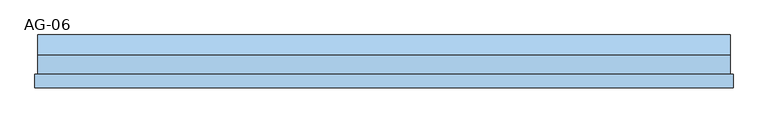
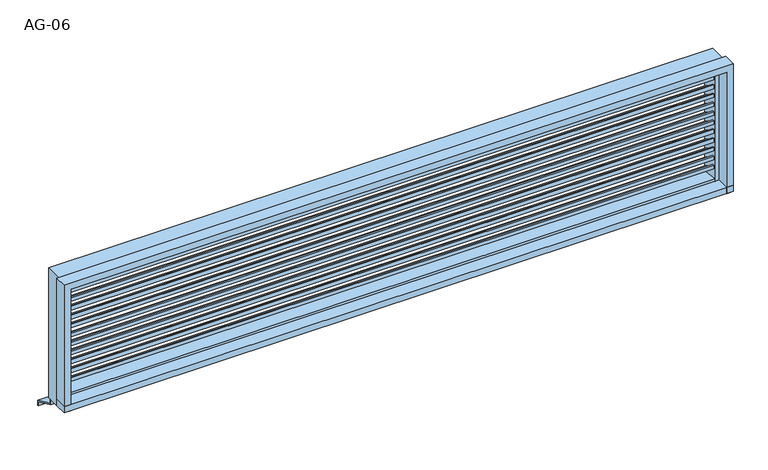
"""IFC4 building model written with IfcOpenShell, lengths in millimetres: window geometry, 営_単窓_ガラリ : AG-06."""

from ifc_helpers import new_model, si_unit, frame, origin, place, context, project, spatial, polyline, outline, extrude, source, transform, mapped, element, save


def ag_06_22dadb70(model_context):
    return source(origin(), model_context, "Body", "SweptSolid", [
        extrude(outline(polyline([(15.0, 1581.8857291), (15.0, 1563.6363636), (10.0, 1563.6363636), (10.0, 1578.6363636), (-35.0, 1598.6363636), (-35.0, 1613.6363636), (-30.0, 1613.6363636), (-30.0, 1601.8857291), (15.0, 1581.8857291)])), frame((-1250.0, 0.0, 0.0), z_axis=(1.0, 0.0, 0.0), x_axis=(0.0, 1.0, 0.0)), (0.0, 0.0, 1.0), 2500.0),
        extrude(outline(polyline([(15.0, 1545.5220927), (15.0, 1527.2727273), (10.0, 1527.2727273), (10.0, 1542.2727273), (-35.0, 1562.2727273), (-35.0, 1577.2727273), (-30.0, 1577.2727273), (-30.0, 1565.5220927), (15.0, 1545.5220927)])), frame((-1250.0, 0.0, 0.0), z_axis=(1.0, 0.0, 0.0), x_axis=(0.0, 1.0, 0.0)), (0.0, 0.0, 1.0), 2500.0),
        extrude(outline(polyline([(15.0, 1509.1584564), (15.0, 1490.9090909), (10.0, 1490.9090909), (10.0, 1505.9090909), (-35.0, 1525.9090909), (-35.0, 1540.9090909), (-30.0, 1540.9090909), (-30.0, 1529.1584564), (15.0, 1509.1584564)])), frame((-1250.0, 0.0, 0.0), z_axis=(1.0, 0.0, 0.0), x_axis=(0.0, 1.0, 0.0)), (0.0, 0.0, 1.0), 2500.0),
        extrude(outline(polyline([(15.0, 1472.79482), (15.0, 1454.5454545), (10.0, 1454.5454545), (10.0, 1469.5454545), (-35.0, 1489.5454545), (-35.0, 1504.5454545), (-30.0, 1504.5454545), (-30.0, 1492.79482), (15.0, 1472.79482)])), frame((-1250.0, 0.0, 0.0), z_axis=(1.0, 0.0, 0.0), x_axis=(0.0, 1.0, 0.0)), (0.0, 0.0, 1.0), 2500.0),
        extrude(outline(polyline([(15.0, 1436.4311836), (15.0, 1418.1818182), (10.0, 1418.1818182), (10.0, 1433.1818182), (-35.0, 1453.1818182), (-35.0, 1468.1818182), (-30.0, 1468.1818182), (-30.0, 1456.4311836), (15.0, 1436.4311836)])), frame((-1250.0, 0.0, 0.0), z_axis=(1.0, 0.0, 0.0), x_axis=(0.0, 1.0, 0.0)), (0.0, 0.0, 1.0), 2500.0),
        extrude(outline(polyline([(15.0, 1400.0675473), (15.0, 1381.8181818), (10.0, 1381.8181818), (10.0, 1396.8181818), (-35.0, 1416.8181818), (-35.0, 1431.8181818), (-30.0, 1431.8181818), (-30.0, 1420.0675473), (15.0, 1400.0675473)])), frame((-1250.0, 0.0, 0.0), z_axis=(1.0, 0.0, 0.0), x_axis=(0.0, 1.0, 0.0)), (0.0, 0.0, 1.0), 2500.0),
        extrude(outline(polyline([(15.0, 1363.7039109), (15.0, 1345.4545455), (10.0, 1345.4545455), (10.0, 1360.4545455), (-35.0, 1380.4545455), (-35.0, 1395.4545455), (-30.0, 1395.4545455), (-30.0, 1383.7039109), (15.0, 1363.7039109)])), frame((-1250.0, 0.0, 0.0), z_axis=(1.0, 0.0, 0.0), x_axis=(0.0, 1.0, 0.0)), (0.0, 0.0, 1.0), 2500.0),
        extrude(outline(polyline([(15.0, 1327.3402745), (15.0, 1309.0909091), (10.0, 1309.0909091), (10.0, 1324.0909091), (-35.0, 1344.0909091), (-35.0, 1359.0909091), (-30.0, 1359.0909091), (-30.0, 1347.3402745), (15.0, 1327.3402745)])), frame((-1250.0, 0.0, 0.0), z_axis=(1.0, 0.0, 0.0), x_axis=(0.0, 1.0, 0.0)), (0.0, 0.0, 1.0), 2500.0),
        extrude(outline(polyline([(15.0, 1290.9766382), (15.0, 1272.7272727), (10.0, 1272.7272727), (10.0, 1287.7272727), (-35.0, 1307.7272727), (-35.0, 1322.7272727), (-30.0, 1322.7272727), (-30.0, 1310.9766382), (15.0, 1290.9766382)])), frame((-1250.0, 0.0, 0.0), z_axis=(1.0, 0.0, 0.0), x_axis=(0.0, 1.0, 0.0)), (0.0, 0.0, 1.0), 2500.0),
        extrude(outline(polyline([(15.0, 1254.6130018), (15.0, 1236.3636364), (10.0, 1236.3636364), (10.0, 1251.3636364), (-35.0, 1271.3636364), (-35.0, 1286.3636364), (-30.0, 1286.3636364), (-30.0, 1274.6130018), (15.0, 1254.6130018)])), frame((-1250.0, 0.0, 0.0), z_axis=(1.0, 0.0, 0.0), x_axis=(0.0, 1.0, 0.0)), (0.0, 0.0, 1.0), 2500.0),
        extrude(outline(polyline([(15.0, 1618.2493654), (15.0, 1600.0), (10.0, 1600.0), (10.0, 1615.0), (-35.0, 1635.0), (-35.0, 1650.0), (-30.0, 1650.0), (-30.0, 1638.2493654), (15.0, 1618.2493654)])), frame((-1250.0, 0.0, 0.0), z_axis=(1.0, 0.0, 0.0), x_axis=(0.0, 1.0, 0.0)), (0.0, 0.0, 1.0), 2500.0),
        extrude(outline(polyline([(15.0, 1218.2493654), (15.0, 1200.0), (10.0, 1200.0), (10.0, 1215.0), (-35.0, 1235.0), (-35.0, 1250.0), (-30.0, 1250.0), (-30.0, 1238.2493654), (15.0, 1218.2493654)])), frame((-1250.0, 0.0, 0.0), z_axis=(1.0, 0.0, 0.0), x_axis=(0.0, 1.0, 0.0)), (0.0, 0.0, 1.0), 2500.0),
        extrude(outline(polyline([(1290.0, -95.0), (-1290.0, -95.0), (-1290.0, -45.0), (1290.0, -45.0), (1290.0, -95.0)])), frame((0.0, 0.0, 1165.0), z_axis=(0.0, 0.0, 1.0), x_axis=(1.0, 0.0, 0.0)), (0.0, 0.0, 1.0), 25.0),
        extrude(outline(polyline([(15.0, 1135.0), (100.0, 1095.0), (100.0, 1075.0), (95.0014518, 1075.0), (95.0014518, 1091.8262891), (10.0, 1131.8269723), (10.0, 1150.0), (15.0, 1150.0), (15.0, 1135.0)])), frame((-1280.0, 0.0, 0.0), z_axis=(1.0, 0.0, 0.0), x_axis=(0.0, 1.0, 0.0)), (0.0, 0.0, 1.0), 2560.0),
        extrude(outline(polyline([(1165.0, -1290.0), (1165.0, -1265.0), (1660.0, -1265.0), (1660.0, 1265.0), (1165.0, 1265.0), (1165.0, 1290.0), (1685.0, 1290.0), (1685.0, -1290.0), (1165.0, -1290.0)])), frame((0.0, -95.0, 0.0), z_axis=(0.0, 1.0, 0.0), x_axis=(0.0, 0.0, 1.0)), (0.0, 0.0, 1.0), 50.0),
        extrude(outline(polyline([(1150.0, -1280.0), (1150.0, -1250.0), (1650.0, -1250.0), (1650.0, 1250.0), (1150.0, 1250.0), (1150.0, 1280.0), (1680.0, 1280.0), (1680.0, -1280.0), (1150.0, -1280.0)])), frame((0.0, -45.0, 0.0), z_axis=(0.0, 1.0, 0.0), x_axis=(0.0, 0.0, 1.0)), (0.0, 0.0, 1.0), 70.0),
        extrude(outline(polyline([(-45.0, 1150.0), (-45.0, 1200.0), (25.0, 1190.6666667), (25.0, 1150.0), (-45.0, 1150.0)])), frame((-1250.0, 0.0, 0.0), z_axis=(1.0, 0.0, 0.0), x_axis=(0.0, 1.0, 0.0)), (0.0, 0.0, 1.0), 2500.0),
    ])


if __name__ == "__main__":
    model = new_model("IFC4")
    model_context = context("Model", 3, world=origin())
    ifc_project = project(units=[si_unit("LENGTHUNIT", "METRE", prefix="MILLI")], contexts=[model_context])
    site = spatial("IfcSite", under=ifc_project)
    building = spatial("IfcBuilding", under=site)
    placement = place(None, origin())
    ag_06_shape = ag_06_22dadb70(model_context)
    element("IfcWindow", 1, ObjectType="営_単窓_ガラリ : AG-06", at=placement, inside=building, context=model_context, shape_type="MappedRepresentation", body=[
        mapped(ag_06_shape, transform((0.0, 0.0, 0.0), x_axis=(1.0, 0.0, 0.0), y_axis=(0.0, 1.0, 0.0), z_axis=(0.0, 0.0, 1.0))),
    ])
    save(model, "model.ifc")
